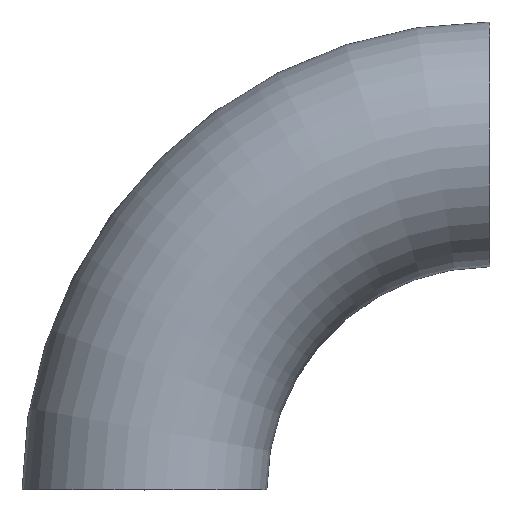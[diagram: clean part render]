
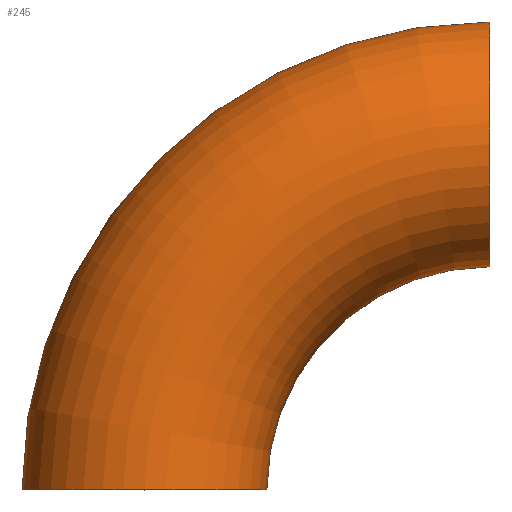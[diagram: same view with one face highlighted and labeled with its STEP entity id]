
A CAD part, top view. The second image highlights one B-rep face of the part: STEP entity #245.
In plain terms, the highlighted toroidal (fillet/blend) face has major radius 457 mm and minor radius 161.95 mm.
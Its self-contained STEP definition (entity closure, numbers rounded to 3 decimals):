
#5 = CIRCLE ( 'NONE', #192, 295.05 ) ;
#11 = DIRECTION ( 'NONE',  ( 0., 0., 1. ) ) ;
#14 = DIRECTION ( 'NONE',  ( 0., 0., 1. ) ) ;
#22 = EDGE_CURVE ( 'NONE', #219, #184, #196, .T. ) ;
#23 = VERTEX_POINT ( 'NONE', #135 ) ;
#27 = CARTESIAN_POINT ( 'NONE',  ( 457., 457., 0. ) ) ;
#30 = CARTESIAN_POINT ( 'NONE',  ( 457., 0., 0. ) ) ;
#44 = ORIENTED_EDGE ( 'NONE', *, *, #68, .T. ) ;
#49 = AXIS2_PLACEMENT_3D ( 'NONE', #30, #11, #227 ) ;
#65 = EDGE_CURVE ( 'NONE', #224, #23, #179, .T. ) ;
#66 = CARTESIAN_POINT ( 'NONE',  ( 0., 0., 0. ) ) ;
#68 = EDGE_CURVE ( 'NONE', #219, #224, #131, .T. ) ;
#82 = CARTESIAN_POINT ( 'NONE',  ( -161.95, 0., 0. ) ) ;
#98 = CARTESIAN_POINT ( 'NONE',  ( 457., 618.95, 0. ) ) ;
#103 = DIRECTION ( 'NONE',  ( 1., 0., 0. ) ) ;
#122 = ORIENTED_EDGE ( 'NONE', *, *, #65, .T. ) ;
#129 = ORIENTED_EDGE ( 'NONE', *, *, #22, .F. ) ;
#131 = CIRCLE ( 'NONE', #155, 618.95 ) ;
#135 = CARTESIAN_POINT ( 'NONE',  ( 161.95, 0., 0. ) ) ;
#136 = DIRECTION ( 'NONE',  ( 0., 0., 1. ) ) ;
#140 = CARTESIAN_POINT ( 'NONE',  ( 457., 295.05, 0. ) ) ;
#141 = DIRECTION ( 'NONE',  ( 0., 0., 1. ) ) ;
#147 = EDGE_CURVE ( 'NONE', #184, #23, #5, .T. ) ;
#155 = AXIS2_PLACEMENT_3D ( 'NONE', #207, #181, #167 ) ;
#159 = AXIS2_PLACEMENT_3D ( 'NONE', #27, #218, #136 ) ;
#166 = EDGE_LOOP ( 'NONE', ( #129, #44, #122, #225 ) ) ;
#167 = DIRECTION ( 'NONE',  ( 1., 0., 0. ) ) ;
#174 = TOROIDAL_SURFACE ( 'NONE', #49, 457., 161.95 ) ;
#179 = CIRCLE ( 'NONE', #253, 161.95 ) ;
#181 = DIRECTION ( 'NONE',  ( 0., 0., 1. ) ) ;
#184 = VERTEX_POINT ( 'NONE', #140 ) ;
#192 = AXIS2_PLACEMENT_3D ( 'NONE', #222, #14, #103 ) ;
#196 = CIRCLE ( 'NONE', #159, 161.95 ) ;
#204 = FACE_OUTER_BOUND ( 'NONE', #166, .T. ) ;
#207 = CARTESIAN_POINT ( 'NONE',  ( 457., 0., 0. ) ) ;
#218 = DIRECTION ( 'NONE',  ( 1., 0., 0. ) ) ;
#219 = VERTEX_POINT ( 'NONE', #98 ) ;
#222 = CARTESIAN_POINT ( 'NONE',  ( 457., 0., 0. ) ) ;
#224 = VERTEX_POINT ( 'NONE', #82 ) ;
#225 = ORIENTED_EDGE ( 'NONE', *, *, #147, .F. ) ;
#227 = DIRECTION ( 'NONE',  ( 1., 0., 0. ) ) ;
#242 = DIRECTION ( 'NONE',  ( 0., 1., 0. ) ) ;
#245 = ADVANCED_FACE ( 'NONE', ( #204 ), #174, .T. ) ;
#253 = AXIS2_PLACEMENT_3D ( 'NONE', #66, #242, #141 ) ;
